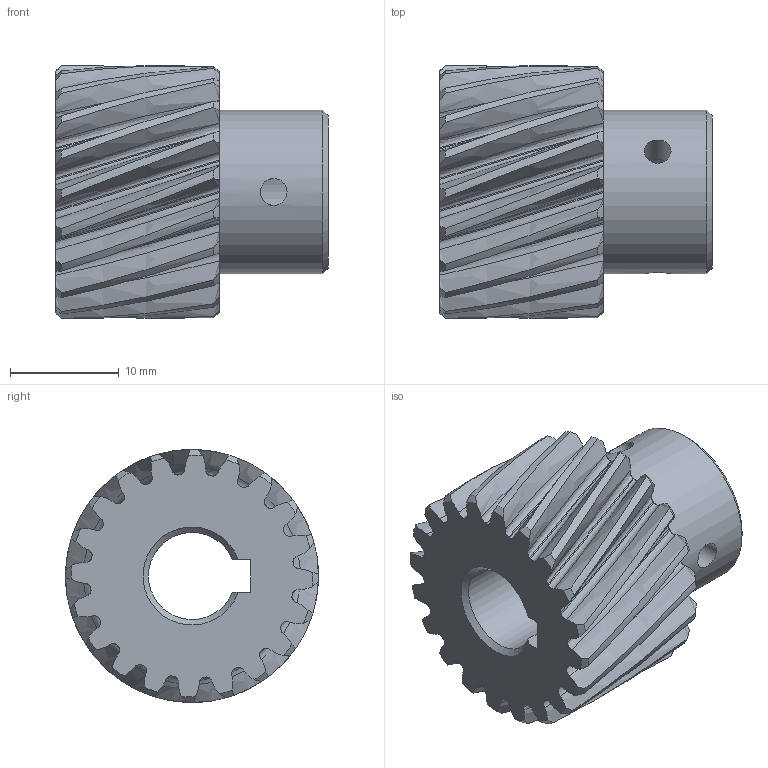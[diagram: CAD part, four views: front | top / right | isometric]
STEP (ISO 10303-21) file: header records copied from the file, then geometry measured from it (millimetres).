
FILE_DESCRIPTION(('STEP AP214'), '1');
FILE_NAME('GH1-T20D8 - Øåñòåðíÿ', '2018-02-16T11:23:31', (''), (''), 'ASCON STEP Converter 1.3', 'ASCON Math Kernel', '');
FILE_SCHEMA(('AUTOMOTIVE_DESIGN { 1 0 10303 214 3 1 1}'));
Length unit declared in the file: millimetre
Products named in the file (1): GH1-T20D8
Bounding box: 25 x 23.22 x 23.22 mm (x, y, z)
Volume: 5590.5 mm3; surface area: 3692.5 mm2
Topology: 1 solids, 1 shells, 175 faces, 516 edges, 345 vertices
Faces by surface type: bspline 80, cylinder 46, cone 43, plane 6
Full cylindrical faces by diameter (mm): 2.459 x2, 15 x1
Entity records: 15854 total; most frequent: CARTESIAN_POINT 10505, ORIENTED_EDGE 1022, EDGE_CURVE 511, DIRECTION 468, B_SPLINE_CURVE_WITH_KNOTS 367, VERTEX_POINT 343, AXIS2_PLACEMENT_3D 228, EDGE_LOOP 186
